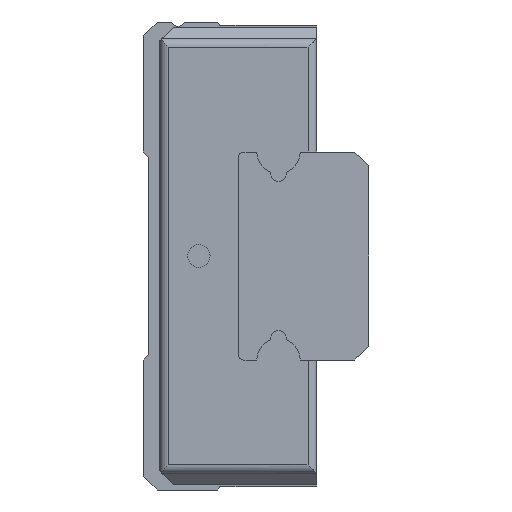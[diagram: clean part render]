
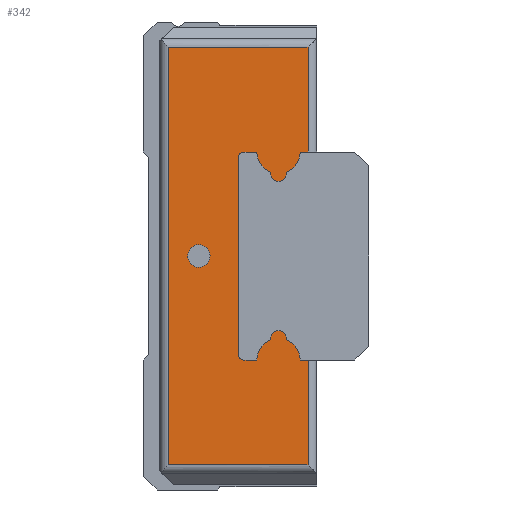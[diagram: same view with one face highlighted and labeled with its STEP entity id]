
A CAD part, left-side view. The second image highlights one B-rep face of the part: STEP entity #342.
In plain terms, the highlighted planar face has unit normal (-1, 0, 0).
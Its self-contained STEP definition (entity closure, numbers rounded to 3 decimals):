
#342 = ADVANCED_FACE( '', ( #694, #695 ), #696, .T. );
#694 = FACE_OUTER_BOUND( '', #1050, .T. );
#695 = FACE_BOUND( '', #1051, .T. );
#696 = PLANE( '', #1052 );
#1050 = EDGE_LOOP( '', ( #1882, #1883, #1884, #1885, #1886, #1887, #1888, #1889, #1890, #1891, #1892, #1893, #1894, #1895, #1896, #1897, #1898, #1899 ) );
#1051 = EDGE_LOOP( '', ( #1900 ) );
#1052 = AXIS2_PLACEMENT_3D( '', #1901, #1902, #1903 );
#1882 = ORIENTED_EDGE( '', *, *, #2276, .T. );
#1883 = ORIENTED_EDGE( '', *, *, #2151, .F. );
#1884 = ORIENTED_EDGE( '', *, *, #2282, .T. );
#1885 = ORIENTED_EDGE( '', *, *, #2381, .F. );
#1886 = ORIENTED_EDGE( '', *, *, #2296, .F. );
#1887 = ORIENTED_EDGE( '', *, *, #2382, .F. );
#1888 = ORIENTED_EDGE( '', *, *, #2043, .T. );
#1889 = ORIENTED_EDGE( '', *, *, #2229, .T. );
#1890 = ORIENTED_EDGE( '', *, *, #2343, .T. );
#1891 = ORIENTED_EDGE( '', *, *, #2198, .T. );
#1892 = ORIENTED_EDGE( '', *, *, #2164, .T. );
#1893 = ORIENTED_EDGE( '', *, *, #2362, .F. );
#1894 = ORIENTED_EDGE( '', *, *, #2058, .F. );
#1895 = ORIENTED_EDGE( '', *, *, #2313, .F. );
#1896 = ORIENTED_EDGE( '', *, *, #2323, .T. );
#1897 = ORIENTED_EDGE( '', *, *, #2285, .F. );
#1898 = ORIENTED_EDGE( '', *, *, #2234, .F. );
#1899 = ORIENTED_EDGE( '', *, *, #2086, .T. );
#1900 = ORIENTED_EDGE( '', *, *, #2383, .T. );
#1901 = CARTESIAN_POINT( '', ( -22., 0., 0. ) );
#1902 = DIRECTION( '', ( -1., 0., 0. ) );
#1903 = DIRECTION( '', ( 0., 0., 1. ) );
#2043 = EDGE_CURVE( '', #2405, #2406, #2407, .T. );
#2058 = EDGE_CURVE( '', #2432, #2433, #2434, .T. );
#2086 = EDGE_CURVE( '', #2485, #2483, #2486, .T. );
#2151 = EDGE_CURVE( '', #2593, #2594, #2595, .T. );
#2164 = EDGE_CURVE( '', #2614, #2615, #2616, .T. );
#2198 = EDGE_CURVE( '', #2669, #2614, #2670, .T. );
#2229 = EDGE_CURVE( '', #2406, #2712, #2713, .T. );
#2234 = EDGE_CURVE( '', #2485, #2719, #2720, .T. );
#2276 = EDGE_CURVE( '', #2483, #2594, #2783, .T. );
#2282 = EDGE_CURVE( '', #2593, #2789, #2791, .T. );
#2285 = EDGE_CURVE( '', #2719, #2794, #2795, .T. );
#2296 = EDGE_CURVE( '', #2810, #2811, #2812, .T. );
#2313 = EDGE_CURVE( '', #2835, #2432, #2836, .T. );
#2323 = EDGE_CURVE( '', #2835, #2794, #2850, .T. );
#2343 = EDGE_CURVE( '', #2712, #2669, #2873, .T. );
#2362 = EDGE_CURVE( '', #2433, #2615, #2893, .T. );
#2381 = EDGE_CURVE( '', #2811, #2789, #2913, .T. );
#2382 = EDGE_CURVE( '', #2405, #2810, #2914, .T. );
#2383 = EDGE_CURVE( '', #2915, #2915, #2916, .T. );
#2405 = VERTEX_POINT( '', #2939 );
#2406 = VERTEX_POINT( '', #2940 );
#2407 = LINE( '', #2941, #2942 );
#2432 = VERTEX_POINT( '', #2978 );
#2433 = VERTEX_POINT( '', #2979 );
#2434 = CIRCLE( '', #2980, 0.45 );
#2483 = VERTEX_POINT( '', #3042 );
#2485 = VERTEX_POINT( '', #3044 );
#2486 = LINE( '', #3045, #3046 );
#2593 = VERTEX_POINT( '', #3188 );
#2594 = VERTEX_POINT( '', #3189 );
#2595 = LINE( '', #3190, #3191 );
#2614 = VERTEX_POINT( '', #3217 );
#2615 = VERTEX_POINT( '', #3218 );
#2616 = LINE( '', #3219, #3220 );
#2669 = VERTEX_POINT( '', #3292 );
#2670 = CIRCLE( '', #3293, 0.3 );
#2712 = VERTEX_POINT( '', #3350 );
#2713 = CIRCLE( '', #3351, 0.3 );
#2719 = VERTEX_POINT( '', #3358 );
#2720 = LINE( '', #3359, #3360 );
#2783 = LINE( '', #3444, #3445 );
#2789 = VERTEX_POINT( '', #3452 );
#2791 = LINE( '', #3455, #3456 );
#2794 = VERTEX_POINT( '', #3460 );
#2795 = LINE( '', #3461, #3462 );
#2810 = VERTEX_POINT( '', #3483 );
#2811 = VERTEX_POINT( '', #3484 );
#2812 = CIRCLE( '', #3485, 0.45 );
#2835 = VERTEX_POINT( '', #3517 );
#2836 = CIRCLE( '', #3518, 1.25 );
#2850 = LINE( '', #3536, #3537 );
#2873 = LINE( '', #3566, #3567 );
#2893 = CIRCLE( '', #3596, 1.25 );
#2913 = CIRCLE( '', #3617, 1.25 );
#2914 = CIRCLE( '', #3618, 1.25 );
#2915 = VERTEX_POINT( '', #3619 );
#2916 = CIRCLE( '', #3620, 0.65 );
#2939 = CARTESIAN_POINT( '', ( -22., 3.45, -6. ) );
#2940 = CARTESIAN_POINT( '', ( -22., 4.2, -6. ) );
#2941 = CARTESIAN_POINT( '', ( -22., 3.45, -6. ) );
#2942 = VECTOR( '', #3644, 1000. );
#2978 = CARTESIAN_POINT( '', ( -22., 1.757, 4.831 ) );
#2979 = CARTESIAN_POINT( '', ( -22., 2.643, 4.831 ) );
#2980 = AXIS2_PLACEMENT_3D( '', #3656, #3657, #3658 );
#3042 = CARTESIAN_POINT( '', ( -22., 8.55, -12.05 ) );
#3044 = CARTESIAN_POINT( '', ( -22., 8.55, 12.05 ) );
#3045 = CARTESIAN_POINT( '', ( -22., 8.55, 13.5 ) );
#3046 = VECTOR( '', #3705, 1000. );
#3188 = CARTESIAN_POINT( '', ( -22., 0.5, -6. ) );
#3189 = CARTESIAN_POINT( '', ( -22., 0.5, -12.05 ) );
#3190 = CARTESIAN_POINT( '', ( -22., 0.5, 13.5 ) );
#3191 = VECTOR( '', #3783, 1000. );
#3217 = CARTESIAN_POINT( '', ( -22., 4.2, 6. ) );
#3218 = CARTESIAN_POINT( '', ( -22., 3.45, 6. ) );
#3219 = CARTESIAN_POINT( '', ( -22., 4.2, 6. ) );
#3220 = VECTOR( '', #3797, 1000. );
#3292 = CARTESIAN_POINT( '', ( -22., 4.5, 5.7 ) );
#3293 = AXIS2_PLACEMENT_3D( '', #3835, #3836, #3837 );
#3350 = CARTESIAN_POINT( '', ( -22., 4.5, -5.7 ) );
#3351 = AXIS2_PLACEMENT_3D( '', #3871, #3872, #3873 );
#3358 = CARTESIAN_POINT( '', ( -22., 0.5, 12.05 ) );
#3359 = CARTESIAN_POINT( '', ( -22., 10., 12.05 ) );
#3360 = VECTOR( '', #3881, 1000. );
#3444 = CARTESIAN_POINT( '', ( -22., 10., -12.05 ) );
#3445 = VECTOR( '', #3936, 1000. );
#3452 = CARTESIAN_POINT( '', ( -22., 0.95, -6. ) );
#3455 = CARTESIAN_POINT( '', ( -22., 0., -6. ) );
#3456 = VECTOR( '', #3942, 1000. );
#3460 = CARTESIAN_POINT( '', ( -22., 0.5, 6. ) );
#3461 = CARTESIAN_POINT( '', ( -22., 0.5, 13.5 ) );
#3462 = VECTOR( '', #3944, 1000. );
#3483 = CARTESIAN_POINT( '', ( -22., 2.643, -4.831 ) );
#3484 = CARTESIAN_POINT( '', ( -22., 1.757, -4.831 ) );
#3485 = AXIS2_PLACEMENT_3D( '', #3954, #3955, #3956 );
#3517 = CARTESIAN_POINT( '', ( -22., 0.95, 6. ) );
#3518 = AXIS2_PLACEMENT_3D( '', #3972, #3973, #3974 );
#3536 = CARTESIAN_POINT( '', ( -22., 0.95, 6. ) );
#3537 = VECTOR( '', #3985, 1000. );
#3566 = CARTESIAN_POINT( '', ( -22., 4.5, -5.7 ) );
#3567 = VECTOR( '', #4004, 1000. );
#3596 = AXIS2_PLACEMENT_3D( '', #4023, #4024, #4025 );
#3617 = AXIS2_PLACEMENT_3D( '', #4048, #4049, #4050 );
#3618 = AXIS2_PLACEMENT_3D( '', #4051, #4052, #4053 );
#3619 = CARTESIAN_POINT( '', ( -22., 6.8, -0.65 ) );
#3620 = AXIS2_PLACEMENT_3D( '', #4054, #4055, #4056 );
#3644 = DIRECTION( '', ( 0., 1., 0. ) );
#3656 = CARTESIAN_POINT( '', ( -22., 2.2, 4.75 ) );
#3657 = DIRECTION( '', ( 1., 0., 0. ) );
#3658 = DIRECTION( '', ( 0., 0., -1. ) );
#3705 = DIRECTION( '', ( 0., 0., -1. ) );
#3783 = DIRECTION( '', ( 0., 0., -1. ) );
#3797 = DIRECTION( '', ( 0., -1., 0. ) );
#3835 = CARTESIAN_POINT( '', ( -22., 4.2, 5.7 ) );
#3836 = DIRECTION( '', ( 1., 0., 0. ) );
#3837 = DIRECTION( '', ( 0., 0., -1. ) );
#3871 = CARTESIAN_POINT( '', ( -22., 4.2, -5.7 ) );
#3872 = DIRECTION( '', ( 1., 0., 0. ) );
#3873 = DIRECTION( '', ( 0., 0., -1. ) );
#3881 = DIRECTION( '', ( 0., -1., 0. ) );
#3936 = DIRECTION( '', ( 0., -1., 0. ) );
#3942 = DIRECTION( '', ( 0., 1., 0. ) );
#3944 = DIRECTION( '', ( 0., 0., -1. ) );
#3954 = CARTESIAN_POINT( '', ( -22., 2.2, -4.75 ) );
#3955 = DIRECTION( '', ( 1., 0., 0. ) );
#3956 = DIRECTION( '', ( 0., 0., -1. ) );
#3972 = CARTESIAN_POINT( '', ( -22., 2.2, 6. ) );
#3973 = DIRECTION( '', ( 1., 0., 0. ) );
#3974 = DIRECTION( '', ( 0., 0., -1. ) );
#3985 = DIRECTION( '', ( 0., -1., 0. ) );
#4004 = DIRECTION( '', ( 0., 0., 1. ) );
#4023 = CARTESIAN_POINT( '', ( -22., 2.2, 6. ) );
#4024 = DIRECTION( '', ( 1., 0., 0. ) );
#4025 = DIRECTION( '', ( 0., 0., -1. ) );
#4048 = CARTESIAN_POINT( '', ( -22., 2.2, -6. ) );
#4049 = DIRECTION( '', ( 1., 0., 0. ) );
#4050 = DIRECTION( '', ( 0., 0., -1. ) );
#4051 = CARTESIAN_POINT( '', ( -22., 2.2, -6. ) );
#4052 = DIRECTION( '', ( 1., 0., 0. ) );
#4053 = DIRECTION( '', ( 0., 0., -1. ) );
#4054 = CARTESIAN_POINT( '', ( -22., 6.8, 0. ) );
#4055 = DIRECTION( '', ( 1., 0., 0. ) );
#4056 = DIRECTION( '', ( 0., 0., -1. ) );
